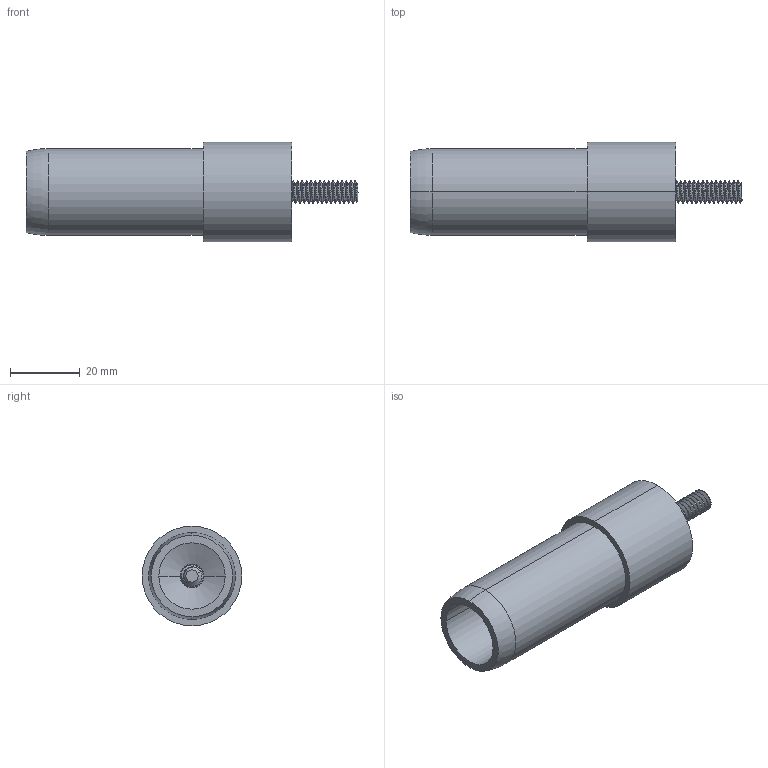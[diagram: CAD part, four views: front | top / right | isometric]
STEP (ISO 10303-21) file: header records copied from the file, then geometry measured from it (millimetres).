
FILE_DESCRIPTION (( 'STEP AP214' ), '1' );
FILE_NAME ('DRP-002-0518-00.STEP', '2013-12-20T16:50:42', ( 'ydmin' ), ( 'Microsoft' ), 'SwSTEP 2.0', 'SolidWorks 2013', '' );
FILE_SCHEMA (( 'AUTOMOTIVE_DESIGN' ));
Length unit declared in the file: inch
Products named in the file (1): DRP-002-0518-00
Bounding box: 95.25 x 28.57 x 28.57 mm (x, y, z)
Volume: 25943.9 mm3; surface area: 13019.3 mm2
Topology: 3 solids, 3 shells, 114 faces, 297 edges, 189 vertices
Faces by surface type: cylinder 66, plane 19, cone 16, bspline 11, torus 2
Entity records: 13007 total; most frequent: CARTESIAN_POINT 9104, ORIENTED_EDGE 590, DIRECTION 398, EDGE_CURVE 295, VERTEX_POINT 189, AXIS2_PLACEMENT_3D 145, LENGTH_MEASURE_WITH_UNIT 119, DIMENSIONAL_EXPONENTS 119
